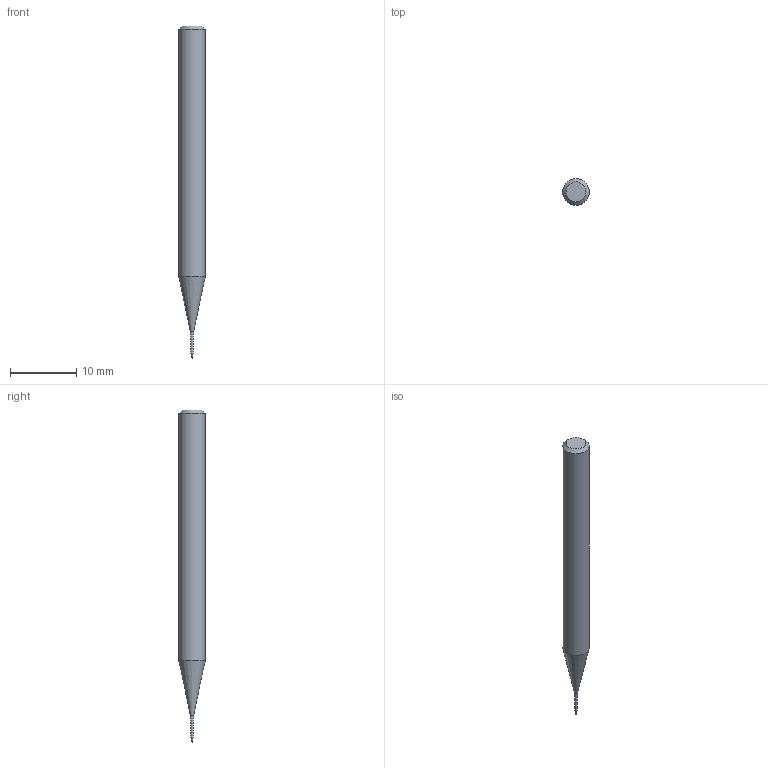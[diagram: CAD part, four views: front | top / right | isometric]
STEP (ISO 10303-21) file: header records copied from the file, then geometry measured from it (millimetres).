
FILE_DESCRIPTION((''),'2;1');
FILE_NAME('C:\Users\nsx150\AppData\Local\Temp\Mastercam 2021\SNAKH10GOD\TEMP.step','2021-10-21T13:30:49',(''),(''),'STEP Write','Mastercam 2021 ... CNC Software, Inc.','');
FILE_SCHEMA(('AUTOMOTIVE_DESIGN'));
Length unit declared in the file: millimetre
Products named in the file (1): None
Bounding box: 4 x 4 x 50 mm (x, y, z)
Volume: 512.4 mm3; surface area: 547 mm2
Topology: 2 solids, 2 shells, 10 faces, 16 edges, 9 vertices
Faces by surface type: plane 3, cylinder 3, cone 3, sphere 1
Full cylindrical faces by diameter (mm): 0.295 x1, 0.3 x1, 4 x1
Entity records: 232 total; most frequent: DIRECTION 40, CARTESIAN_POINT 28, AXIS2_PLACEMENT_3D 20, ORIENTED_EDGE 16, EDGE_LOOP 16, STYLED_ITEM 13, ADVANCED_FACE 10, FACE_BOUND 9
